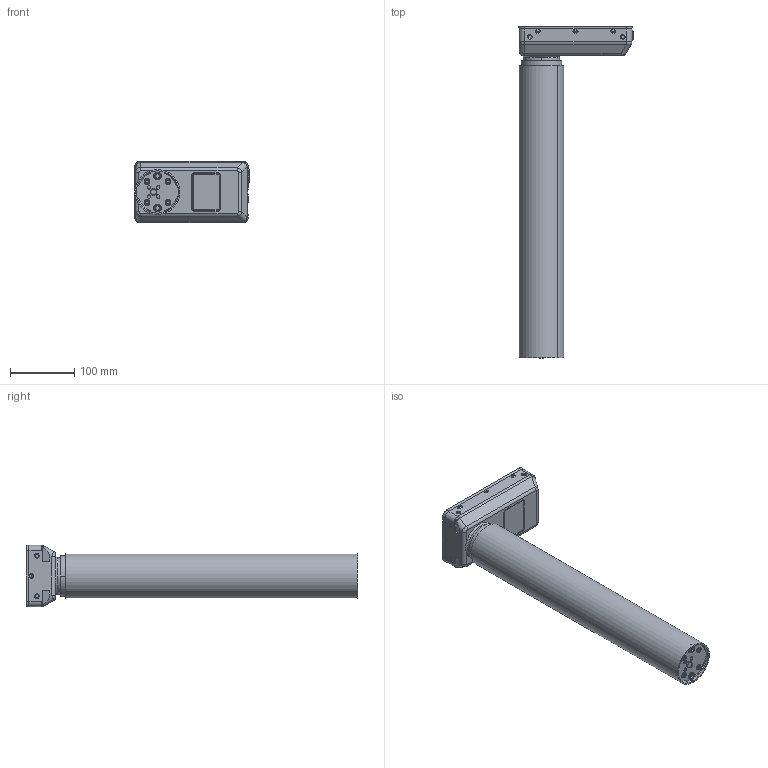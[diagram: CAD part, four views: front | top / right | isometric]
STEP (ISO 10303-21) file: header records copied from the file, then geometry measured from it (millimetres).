
FILE_DESCRIPTION((''),'2;1');
FILE_NAME('DL11_PLUS_BIFMA_ASM','2025-05-15T11:50:25',('jak'),(''),'CREO PARAMETRIC BY PTC INC, 2022024','CREO PARAMETRIC BY PTC INC, 2022024','');
FILE_SCHEMA(('AUTOMOTIVE_DESIGN { 1 0 10303 214 1 1 1 1 }'));
Length unit declared in the file: millimetre
Products named in the file (4): DL11_OP_PLUS_BIFMA; DL11_MP_PLUS_BIFMA; STANDARD_MOTORHUS_DL11_PLUS_BIF; DL11_PLUS_BIFMA_ASM
Assembly tree (3 placements, depth 2):
  DL11_PLUS_BIFMA_ASM
    DL11_OP_PLUS_BIFMA
    DL11_MP_PLUS_BIFMA
    STANDARD_MOTORHUS_DL11_PLUS_BIF
Bounding box: 178.6 x 518 x 96.5 mm (x, y, z)
Volume: 4885513 mm3; surface area: 336183.9 mm2
Topology: 3 solids, 3 shells, 764 faces, 2033 edges, 1298 vertices
Faces by surface type: plane 320, cylinder 302, torus 74, bspline 44, sphere 14, cone 10
Entity records: 30099 total; most frequent: CARTESIAN_POINT 7575, ORIENTED_EDGE 4042, DIRECTION 3932, EDGE_CURVE 2021, AXIS2_PLACEMENT_3D 1455, VERTEX_POINT 1298, VECTOR 1022, LINE 1022
